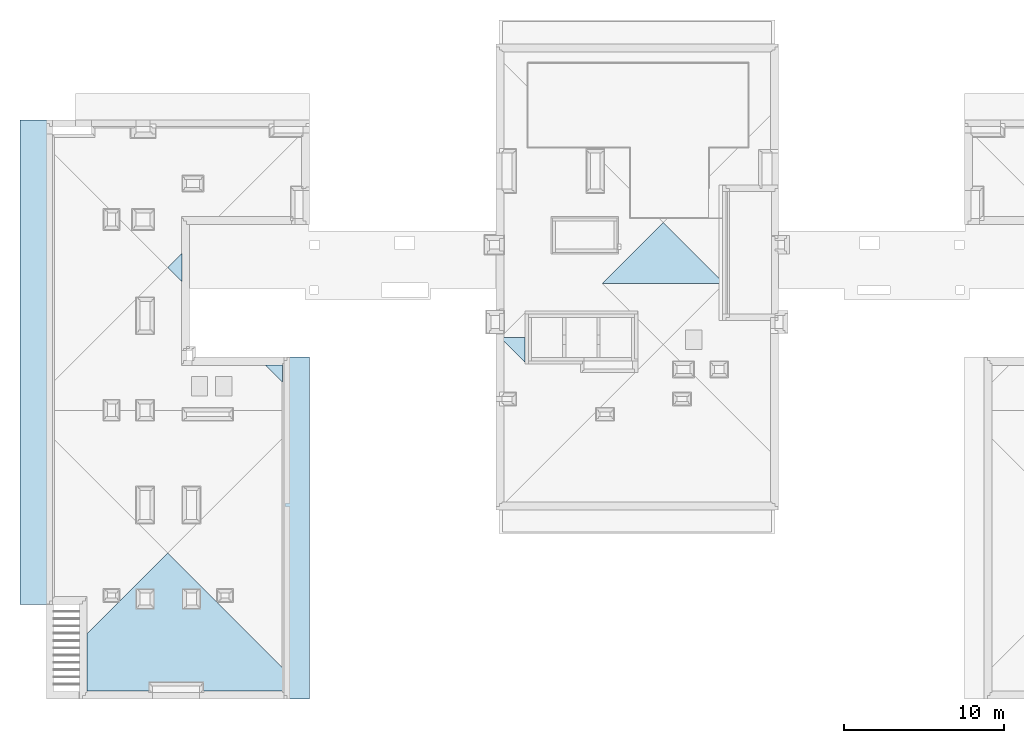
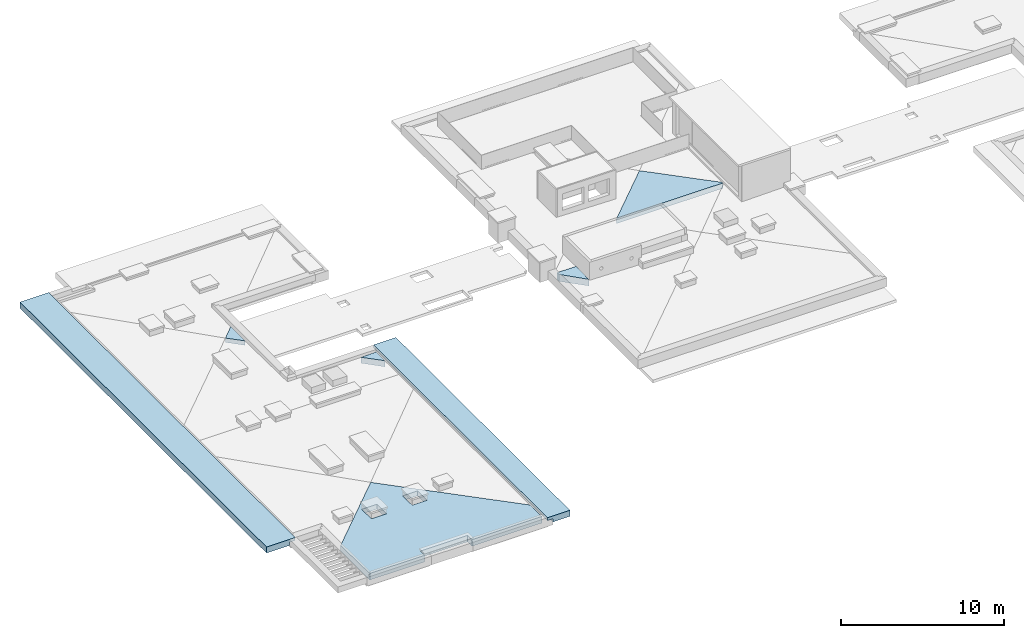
# One storey, part 2 of 16: 7 slabs, 2 openings.
"""IFC2X3 building model written with IfcOpenShell, lengths in millimetres."""

import ifcopenshell
import ifcopenshell.guid

model = None  # the IFC model being written
_history = None  # IfcOwnerHistory: only IFC2X3 demands one
_inside = {}  # id of a spatial element -> (the spatial element, [elements in it])
_under = {}  # id of a project, library or spatial element -> (it, [spatial elements below it])
_declared = {}  # id of a project -> (the project, [libraries it declares])
_typed = {}  # id of a type object -> (the type object, [elements of that type])
_made_of = {}  # id of a material, layer set ... -> (it, [elements and type objects made of it])


def new_model(schema):
    """Start an empty IFC model of exactly this schema.

    Asked for "IFC4X3", IfcOpenShell would pick the latest addendum, in which some entities
    have other attributes; the version numbers below select the first issue.
    IFC2X3 requires an IfcOwnerHistory on every rooted entity: one is made here for all.
    """
    global model, _history
    if schema == "IFC4X3":
        model = ifcopenshell.file(schema_version=(4, 3, 0, 0))
    else:
        model = ifcopenshell.file(schema=schema)
    _inside.clear()
    _under.clear()
    _declared.clear()
    _typed.clear()
    _made_of.clear()
    _history = None
    if model.schema == "IFC2X3":
        org = make("IfcOrganization", Name="unknown")
        user = make(
            "IfcPersonAndOrganization",
            ThePerson=make("IfcPerson", FamilyName="unknown"),
            TheOrganization=org,
        )
        app = make(
            "IfcApplication",
            ApplicationDeveloper=org,
            Version="unknown",
            ApplicationFullName="unknown",
            ApplicationIdentifier="unknown",
        )
        _history = make(
            "IfcOwnerHistory",
            OwningUser=user,
            OwningApplication=app,
            ChangeAction="ADDED",
            CreationDate=0,
        )
    return model


def make(cls, **values):
    """One entity of the class cls with the attributes given. An attribute that is None is left unset."""
    return model.create_entity(
        cls, **{name: value for name, value in values.items() if value is not None}
    )


def entity(cls, *values):
    """Any entity or typed value of the class cls, its attributes in the order of the schema. None: left unset."""
    e = model.create_entity(cls)
    for i, value in enumerate(values):
        if value is not None:
            e[i] = value
    return e


def rooted(cls, **values):
    """An entity with a GlobalId (a new one), such as an element, a storey or a relation."""
    return make(cls, GlobalId=ifcopenshell.guid.new(), OwnerHistory=_history, **values)


def si_unit(unit_type, name, prefix=None):
    """IfcSIUnit, for example si_unit("LENGTHUNIT", "METRE", prefix="MILLI")."""
    return make("IfcSIUnit", UnitType=unit_type, Prefix=prefix, Name=name)


def converted_unit(unit_type, name, factor, base, dimensions=None, offset=None):
    """IfcConversionBasedUnit, such as the inch: factor (a typed value) times the base unit."""
    return make(
        "IfcConversionBasedUnit"
        if offset is None
        else "IfcConversionBasedUnitWithOffset",
        ConversionOffset=offset,
        Dimensions=None
        if dimensions is None
        else entity("IfcDimensionalExponents", *dimensions),
        UnitType=unit_type,
        Name=name,
        ConversionFactor=make(
            "IfcMeasureWithUnit", ValueComponent=factor, UnitComponent=base
        ),
    )


def derived_unit(unit_type, elements):
    """IfcDerivedUnit: a product of units, each with its exponent."""
    return make(
        "IfcDerivedUnit",
        Elements=[
            make("IfcDerivedUnitElement", Unit=unit, Exponent=power)
            for unit, power in elements
        ],
        UnitType=unit_type,
    )


def money_unit(currency):
    """IfcMonetaryUnit."""
    return make("IfcMonetaryUnit", Currency=currency)


def assignment(units):
    """IfcUnitAssignment: the units of a project."""
    return None if units is None else make("IfcUnitAssignment", Units=units)


def point(xyz):
    """IfcCartesianPoint."""
    return None if xyz is None else make("IfcCartesianPoint", Coordinates=xyz)


def direction(xyz):
    """IfcDirection."""
    return None if xyz is None else make("IfcDirection", DirectionRatios=xyz)


def frame(location, z_axis=None, x_axis=None):
    """IfcAxis2Placement3D, a coordinate frame: its origin and axes. An axis left out is left unset."""
    return make(
        "IfcAxis2Placement3D",
        Location=point(location),
        Axis=direction(z_axis),
        RefDirection=direction(x_axis),
    )


def origin_with_axes():
    """The frame at (0, 0, 0) with the z axis (0, 0, 1) and the x axis (1, 0, 0) written out."""
    return frame((0.0, 0.0, 0.0), z_axis=(0.0, 0.0, 1.0), x_axis=(1.0, 0.0, 0.0))


def place(relative_to, where):
    """IfcLocalPlacement: puts the frame where relative to a parent placement (None: the world)."""
    return make(
        "IfcLocalPlacement", PlacementRelTo=relative_to, RelativePlacement=where
    )


def context(
    kind, dimensions, precision=None, world=None, true_north=None, identifier=None
):
    """IfcGeometricRepresentationContext, for example the 3D "Model" context."""
    return make(
        "IfcGeometricRepresentationContext",
        ContextIdentifier=identifier,
        ContextType=kind,
        CoordinateSpaceDimension=dimensions,
        Precision=precision,
        WorldCoordinateSystem=world,
        TrueNorth=true_north,
    )


def subcontext(parent, identifier, kind, view, scale=None):
    """IfcGeometricRepresentationSubContext, for example "Body" below "Model"."""
    return make(
        "IfcGeometricRepresentationSubContext",
        ContextIdentifier=identifier,
        ContextType=kind,
        ParentContext=parent,
        TargetScale=scale,
        TargetView=view,
    )


def project(units=None, contexts=None):
    """IfcProject with its units and contexts."""
    return rooted(
        "IfcProject",
        Name="project",
        RepresentationContexts=contexts,
        UnitsInContext=assignment(units),
    )


def spatial(cls, under=None, at=None, **own):
    """A site, building, storey or space (cls), placed at a placement, below another one or the project."""
    s = rooted(cls, ObjectPlacement=at, **own)
    if under is not None:
        _under.setdefault(under.id(), (under, []))[1].append(s)
    return s


def faces_of(points, faces, orient=None, outer=None):
    """IfcFace entities. A face is a list of loops; a loop is a list of indices into points, from 0.

    orient and outer hold one flag for each loop. By default every Orientation is true, the
    first loop of a face is its IfcFaceOuterBound and the others are IfcFaceBound.
    """
    made = []
    for i, loops in enumerate(faces):
        bounds = []
        for j, loop in enumerate(loops):
            is_outer = j == 0 if outer is None else outer[i][j]
            bounds.append(
                make(
                    "IfcFaceOuterBound" if is_outer else "IfcFaceBound",
                    Bound=make("IfcPolyLoop", Polygon=[points[k] for k in loop]),
                    Orientation=True if orient is None else orient[i][j],
                )
            )
        made.append(make("IfcFace", Bounds=bounds))
    return made


def faceted_brep(points, faces, orient=None, outer=None, voids=None):
    """IfcFacetedBrep: a solid bounded by flat faces; with voids (closed shells), ...WithVoids."""
    shared = [point(p) for p in points]
    hull = make("IfcClosedShell", CfsFaces=faces_of(shared, faces, orient, outer))
    if voids is None:
        return make("IfcFacetedBrep", Outer=hull)
    return make(
        "IfcFacetedBrepWithVoids",
        Outer=hull,
        Voids=[
            make(cls, CfsFaces=faces_of(shared, fs, o, b)) for cls, fs, o, b in voids
        ],
    )


def shape(context_of_items, identifier, shape_type, items):
    """IfcShapeRepresentation: the items that make up one representation, for example the "Body"."""
    return make(
        "IfcShapeRepresentation",
        ContextOfItems=context_of_items,
        RepresentationIdentifier=identifier,
        RepresentationType=shape_type,
        Items=items,
    )


def material(Name=None, Category=None):
    """IfcMaterial."""
    return make("IfcMaterial", Name=Name, Category=Category)


def material_list(materials):
    """IfcMaterialList."""
    return make("IfcMaterialList", Materials=materials)


def made_of(thing, what):
    """Note that an element or type object is made of a material, layer set ...; save() writes the relation."""
    if what is not None:
        _made_of.setdefault(what.id(), (what, []))[1].append(thing)
    return thing


def type_object(cls, material=None, **own):
    """A type object (cls), such as IfcWallType, which elements share."""
    return made_of(rooted(cls, **own), material)


def element(
    cls,
    number,
    at=None,
    inside=None,
    cuts=None,
    type_object=None,
    material=None,
    context=None,
    identifier="Body",
    shape_type=None,
    held_by="IfcProductDefinitionShape",
    body=None,
    shapes=None,
    **own,
):
    """One element of the class cls, such as IfcWall. Its Tag is "e" and its number.

    at: its placement. inside: the storey or other place that contains it. cuts: it is an
    opening in that element (IfcRelVoidsElement). A single representation is given by context,
    identifier, shape_type and body (its items); several are given by shapes. held_by: the class
    of the entity that holds the representations. save() writes the other relations.
    """
    e = rooted(cls, Tag="e%d" % number, ObjectPlacement=at, **own)
    if body is not None:
        shapes = [shape(context, identifier, shape_type, body)]
    if shapes is not None:
        e.Representation = make(held_by, Representations=shapes)
    if inside is not None:
        _inside.setdefault(inside.id(), (inside, []))[1].append(e)
    if cuts is not None:
        rooted(
            "IfcRelVoidsElement", RelatingBuildingElement=cuts, RelatedOpeningElement=e
        )
    if type_object is not None:
        _typed.setdefault(type_object.id(), (type_object, []))[1].append(e)
    return made_of(e, material)


def aggregate(whole, parts):
    """IfcRelAggregates: a whole, such as a stair, and the parts it consists of."""
    return rooted("IfcRelAggregates", RelatingObject=whole, RelatedObjects=parts)


def save(model, path):
    """Write the relations noted so far, then the file.

    IfcRelAggregates (storeys below a building ...), IfcRelContainedInSpatialStructure (elements
    in a storey), IfcRelDefinesByType, IfcRelAssociatesMaterial and IfcRelDeclares: one each for
    every whole, place, type object, material and project.
    """
    for whole, parts in _under.values():
        aggregate(whole, parts)
    for where, things in _inside.values():
        rooted(
            "IfcRelContainedInSpatialStructure",
            RelatedElements=things,
            RelatingStructure=where,
        )
    for kind, things in _typed.values():
        rooted("IfcRelDefinesByType", RelatedObjects=things, RelatingType=kind)
    for what, things in _made_of.values():
        rooted("IfcRelAssociatesMaterial", RelatedObjects=things, RelatingMaterial=what)
    for by, libraries in _declared.values():
        rooted("IfcRelDeclares", RelatingContext=by, RelatedDefinitions=libraries)
    model.write(path)


model = new_model("IFC2X3")

# Units and contexts
model_context = context("Model", 3, precision=0.01, world=origin_with_axes(), true_north=direction((0.34421633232, 0.938890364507)))
body_context = subcontext(model_context, "Body", "Model", "MODEL_VIEW")
ifc_project = project(units=[si_unit("LENGTHUNIT", "METRE", prefix="MILLI"), si_unit("AREAUNIT", "SQUARE_METRE"), si_unit("VOLUMEUNIT", "CUBIC_METRE"), converted_unit("PLANEANGLEUNIT", "DEGREE", entity("IfcPlaneAngleMeasure", 0.0174532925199), si_unit("PLANEANGLEUNIT", "RADIAN"), dimensions=[0, 0, 0, 0, 0, 0, 0]), si_unit("SOLIDANGLEUNIT", "STERADIAN"), money_unit("USD"), converted_unit("TIMEUNIT", "Year", entity("IfcTimeMeasure", 31556926.0), si_unit("TIMEUNIT", "SECOND"), dimensions=[0, 0, 1, 0, 0, 0, 0]), si_unit("MASSUNIT", "GRAM", prefix="KILO"), si_unit("THERMODYNAMICTEMPERATUREUNIT", "DEGREE_CELSIUS"), si_unit("LUMINOUSINTENSITYUNIT", "LUMEN"), si_unit("ENERGYUNIT", "JOULE", prefix="MEGA"), derived_unit("THERMALCONDUCTANCEUNIT", [(si_unit("POWERUNIT", "WATT"), 1), (si_unit("LENGTHUNIT", "METRE"), -1), (si_unit("THERMODYNAMICTEMPERATUREUNIT", "KELVIN"), -1)]), derived_unit("SPECIFICHEATCAPACITYUNIT", [(si_unit("ENERGYUNIT", "JOULE"), 1), (si_unit("MASSUNIT", "GRAM", prefix="KILO"), -1), (si_unit("THERMODYNAMICTEMPERATUREUNIT", "KELVIN"), -1)]), derived_unit("MASSDENSITYUNIT", [(si_unit("MASSUNIT", "GRAM", prefix="KILO"), 1), (si_unit("VOLUMEUNIT", "CUBIC_METRE"), -1)])], contexts=[model_context])

# Site, building, storey
site_placement = place(None, origin_with_axes())
site = spatial("IfcSite", under=ifc_project, at=site_placement, Name="USTRONIE MORSKIE", CompositionType="ELEMENT")
building_placement = place(site_placement, origin_with_axes())
building = spatial("IfcBuilding", under=site, at=building_placement, Name="Budynek", CompositionType="ELEMENT")
storey_placement = place(building_placement, frame((0.0, 0.0, 19000.0), z_axis=(0.0, 0.0, 1.0), x_axis=(1.0, 0.0, 0.0)))
storey = spatial("IfcBuildingStorey", under=building, at=storey_placement, Name="DACH", CompositionType="ELEMENT", Elevation=19000.0)

# Slabs
ifc_material_1 = material(Name="Okładzina kamienna")
ifc_material_2 = material(Name="Żwir")
ifc_material_3 = material(Name="Membrana hydroizolacyjna")
ifc_material_4 = material(Name="Termoizolacja PIR")
ifc_material_list_1 = material_list([ifc_material_1, ifc_material_2, ifc_material_3, ifc_material_4, ifc_material_4])
slab_type_1 = type_object("IfcSlabType", Name="509-PS STROP DACH BALAST 560", PredefinedType="ROOF")
slab_1_placement = place(storey_placement, frame((358537.920824, 729591.199019, -400.0), z_axis=(0.0, 0.0, 1.0), x_axis=(0.0, 1.0, 0.0)))
element("IfcSlab", 1, at=slab_1_placement, inside=storey, type_object=slab_type_1, material=ifc_material_list_1, Name="DA3", PredefinedType="ROOF", context=body_context, shape_type="Brep", body=[
    faceted_brep([(130.0, -7149.99998343, 703.111988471), (130.0, -6080.0000741, 681.711990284), (-939.999909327, -7149.99998343, 703.111988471), (130.000000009, -7149.99998344, 683.107988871), (130.000000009, -6080.00007412, 661.707990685), (-939.999909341, -7149.99998344, 683.107988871)], [[[0, 1, 2]], [[0, 3, 4, 1]], [[1, 4, 5, 2]], [[2, 5, 3, 0]], [[3, 5, 4]]]),
    faceted_brep([(-939.999909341, -7149.99998344, 683.107988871), (-939.999909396, -7149.9999835, 603.091990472), (130.000000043, -7149.9999835, 603.091990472), (130.000000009, -7149.99998344, 683.107988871), (130.000000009, -6080.00007412, 661.707990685), (130.000000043, -6080.00007419, 581.691992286)], [[[0, 1, 2, 3]], [[4, 5, 1, 0]], [[2, 1, 5]], [[3, 2, 5, 4]], [[3, 4, 0]]]),
    faceted_brep([(-939.999909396, -7149.9999835, 603.091990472), (-939.999909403, -7149.99998351, 593.089990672), (130.000000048, -7149.99998351, 593.089990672), (130.000000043, -7149.9999835, 603.091990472), (130.000000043, -6080.00007419, 581.691992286), (130.000000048, -6080.00007419, 571.689992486)], [[[0, 1, 2, 3]], [[4, 5, 1, 0]], [[2, 1, 5]], [[3, 2, 5, 4]], [[3, 4, 0]]]),
    faceted_brep([(-939.999909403, -7149.99998351, 593.089990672), (-939.999909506, -7149.99998361, 443.059993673), (130.000000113, -7149.99998361, 443.059993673), (130.000000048, -7149.99998351, 593.089990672), (130.000000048, -6080.00007419, 571.689992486), (130.000000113, -6080.00007432, 421.659995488)], [[[0, 1, 2, 3]], [[4, 5, 1, 0]], [[2, 1, 5]], [[3, 2, 5, 4]], [[3, 4, 0]]]),
    faceted_brep([(-939.999909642, -7149.99998375, 244.999999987), (130.000000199, -7149.99998375, 244.999999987), (130.000000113, -7149.99998361, 443.059993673), (-939.999909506, -7149.99998361, 443.059993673), (130.00000019, -6080.00007447, 244.999999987), (130.000000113, -6080.00007432, 421.659995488)], [[[0, 1, 2, 3]], [[4, 1, 0]], [[1, 4, 5, 2]], [[3, 2, 5]], [[4, 0, 3, 5]]]),
])
slab_2_placement = place(storey_placement, frame((387703.04047, 738611.198919, -400.0), z_axis=(0.0, 0.0, 1.0), x_axis=(1.0, 0.0, 0.0)))
element("IfcSlab", 2, at=slab_2_placement, inside=storey, type_object=slab_type_1, material=ifc_material_list_1, Name="DA3", PredefinedType="ROOF", context=body_context, shape_type="Brep", body=[
    faceted_brep([(-2045.11955163, -3799.9999165, 636.111987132), (5464.88042075, -3799.9999165, 636.111987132), (5464.88042075, -3709.99988877, 634.311986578), (1754.88045864, 9.37682216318e-05, 560.111986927), (-2045.11955165, -3799.99991652, 616.107987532), (5464.88042075, -3799.99991652, 616.107987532), (5464.88042075, -3709.99988876, 614.307986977), (1754.88045865, 9.37733375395e-05, 540.107987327)], [[[0, 1, 2, 3]], [[0, 4, 5, 1]], [[1, 5, 6, 2]], [[2, 6, 7, 3]], [[3, 7, 4, 0]], [[4, 7, 6, 5]]]),
    faceted_brep([(1754.88045865, 9.37733375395e-05, 540.107987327), (1754.8804587, 9.37938011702e-05, 460.091988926), (-2045.1195517, -3799.99991657, 536.091989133), (-2045.11955165, -3799.99991652, 616.107987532), (5464.88042075, -3709.99988876, 614.307986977), (5464.88042075, -3709.99988873, 534.291988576), (5464.88042075, -3799.99991657, 536.091989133), (5464.88042075, -3799.99991652, 616.107987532)], [[[0, 1, 2, 3]], [[4, 5, 1, 0]], [[2, 1, 5, 6]], [[3, 2, 6, 7]], [[3, 7, 4, 0]], [[7, 6, 5, 4]]]),
    faceted_brep([(1754.8804587, 9.37938011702e-05, 460.091988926), (1754.8804587, 9.37963022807e-05, 450.089989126), (-2045.11955171, -3799.99991658, 526.089989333), (-2045.1195517, -3799.99991657, 536.091989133), (5464.88042075, -3709.99988873, 534.291988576), (5464.88042075, -3709.99988873, 524.289988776), (5464.88042075, -3799.99991658, 526.089989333), (5464.88042075, -3799.99991657, 536.091989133)], [[[0, 1, 2, 3]], [[4, 5, 1, 0]], [[2, 1, 5, 6]], [[3, 2, 6, 7]], [[3, 7, 4, 0]], [[7, 6, 5, 4]]]),
    faceted_brep([(1754.8804587, 9.37963022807e-05, 450.089989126), (1754.88045879, 9.3834614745e-05, 300.059992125), (-2045.11955181, -3799.99991668, 376.059992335), (-2045.11955171, -3799.99991658, 526.089989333), (5464.88042075, -3709.99988873, 524.289988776), (5464.88042075, -3709.99988867, 374.259991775), (5464.88042075, -3799.99991668, 376.059992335), (5464.88042075, -3799.99991658, 526.089989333)], [[[0, 1, 2, 3]], [[4, 5, 1, 0]], [[2, 1, 5, 6]], [[3, 2, 6, 7]], [[3, 7, 4, 0]], [[7, 6, 5, 4]]]),
    faceted_brep([(5464.88042075, -3799.99991677, 245.0), (5464.88042075, -3709.99988863, 245.0), (5464.88042075, -3709.99988867, 374.259991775), (5464.88042075, -3799.99991668, 376.059992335), (1754.88045882, 9.38488255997e-05, 245.0), (-2045.11955191, -3799.99991677, 245.0), (1754.88045879, 9.38347284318e-05, 300.059992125), (-2045.11955181, -3799.99991668, 376.059992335)], [[[0, 1, 2, 3]], [[4, 1, 0, 5]], [[1, 4, 6, 2]], [[6, 7, 3, 2]], [[5, 0, 3, 7]], [[4, 5, 7, 6]]]),
])
slab_3_placement = place(storey_placement, frame((379517.921408, 722091.198918, -383.600007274), z_axis=(0.0, 0.0, 1.0), x_axis=(-1.0, -5.50585355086e-09, 0.0)))
element("IfcSlab", 3, at=slab_3_placement, inside=storey, type_object=slab_type_1, material=ifc_material_list_1, Name="DA3", PredefinedType="ROOF", context=body_context, shape_type="Brep", body=[
    faceted_brep([(20.0004422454, -9355.00001859, 747.211989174), (20.0004317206, -9140.00009967, 742.911990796), (-1319.9995537, -7800.0000995, 716.111990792), (-1319.99956226, -9355.00001121, 747.211989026), (20.0004422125, -9355.0000186, 727.207989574), (20.0004316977, -9140.00009965, 722.907991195), (-1319.99955368, -7800.00009951, 696.107991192), (-1319.99956227, -9355.00001122, 727.207989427)], [[[0, 1, 2, 3]], [[0, 4, 5, 1]], [[1, 5, 6, 2]], [[2, 6, 7, 3]], [[3, 7, 4, 0]], [[4, 7, 6, 5]]]),
    faceted_brep([(-1319.99956227, -9355.00001122, 727.207989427), (-1319.99956232, -9355.00001127, 647.191991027), (20.0004420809, -9355.00001866, 647.191991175), (20.0004422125, -9355.0000186, 727.207989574), (-1319.99955368, -7800.00009951, 696.107991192), (-1319.99955362, -7800.00009954, 616.091992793), (20.0004316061, -9140.00009954, 642.891992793), (20.0004316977, -9140.00009965, 722.907991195)], [[[0, 1, 2, 3]], [[4, 5, 1, 0]], [[2, 1, 5, 6]], [[3, 2, 6, 7]], [[3, 7, 4, 0]], [[7, 6, 5, 4]]]),
    faceted_brep([(-1319.99956232, -9355.00001127, 647.191991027), (-1319.99956232, -9355.00001127, 637.189991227), (20.0004420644, -9355.00001866, 637.189991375), (20.0004420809, -9355.00001866, 647.191991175), (-1319.99955362, -7800.00009954, 616.091992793), (-1319.99955361, -7800.00009954, 606.089992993), (20.0004315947, -9140.00009953, 632.889992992), (20.0004316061, -9140.00009954, 642.891992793)], [[[0, 1, 2, 3]], [[4, 5, 1, 0]], [[2, 1, 5, 6]], [[3, 2, 6, 7]], [[3, 7, 4, 0]], [[7, 6, 5, 4]]]),
    faceted_brep([(-1319.99956232, -9355.00001127, 637.189991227), (-1319.99956241, -9355.00001136, 487.159994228), (20.0004418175, -9355.00001877, 487.159994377), (20.0004420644, -9355.00001866, 637.189991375), (-1319.99955361, -7800.00009954, 606.089992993), (-1319.9995535, -7800.0000996, 456.059995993), (20.0004314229, -9140.00009933, 482.859995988), (20.0004315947, -9140.00009953, 632.889992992)], [[[0, 1, 2, 3]], [[4, 5, 1, 0]], [[2, 1, 5, 6]], [[3, 2, 6, 7]], [[3, 7, 4, 0]], [[7, 6, 5, 4]]]),
    faceted_brep([(-1319.99955333, -7800.00009969, 228.600007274), (-1319.99956256, -9355.0000115, 228.600007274), (-1319.99956241, -9355.00001136, 487.159994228), (-1319.9995535, -7800.0000996, 456.059995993), (20.0004413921, -9355.00001895, 228.600007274), (20.0004311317, -9140.00009899, 228.600007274), (20.0004418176, -9355.00001877, 487.159994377), (20.0004314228, -9140.00009933, 482.859995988)], [[[0, 1, 2, 3]], [[4, 1, 0, 5]], [[1, 4, 6, 2]], [[2, 6, 7, 3]], [[5, 0, 3, 7]], [[4, 5, 7, 6]]]),
])
slab_4_placement = place(storey_placement, frame((358537.920824, 732791.199009, -400.0), z_axis=(0.0, 0.0, 1.0), x_axis=(-5.50528511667e-09, 1.0, 0.0)))
element("IfcSlab", 4, at=slab_4_placement, inside=storey, type_object=slab_type_1, material=ifc_material_list_1, Name="DA3", PredefinedType="ROOF", context=body_context, shape_type="Brep", body=[
    faceted_brep([(3890.00015472, -880.000064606, 577.711990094), (3010.00009981, -1.25055521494e-09, 560.111988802), (2130.0000352, -880.000054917, 577.711989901), (3890.00015472, -880.00006462, 557.707990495), (3010.00009981, 1.25055521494e-08, 540.107989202), (2130.00003519, -880.000054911, 557.7079903)], [[[0, 1, 2]], [[0, 3, 4, 1]], [[1, 4, 5, 2]], [[2, 5, 3, 0]], [[3, 5, 4]]]),
    faceted_brep([(2130.00003519, -880.000054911, 557.7079903), (2130.00003513, -880.000054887, 477.6919919), (3890.00015472, -880.000064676, 477.691992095), (3890.00015472, -880.00006462, 557.707990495), (3010.00009981, 1.25055521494e-08, 540.107989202), (3010.00009982, 6.75868250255e-08, 460.0919908)], [[[0, 1, 2, 3]], [[4, 5, 1, 0]], [[2, 1, 5]], [[3, 2, 5, 4]], [[3, 4, 0]]]),
    faceted_brep([(2130.00003513, -880.000054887, 477.6919919), (2130.00003513, -880.000054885, 467.689992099), (3890.00015472, -880.000064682, 467.689992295), (3890.00015472, -880.000064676, 477.691992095), (3010.00009982, 6.76436684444e-08, 460.0919908), (3010.00009982, 7.45217221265e-08, 450.089991)], [[[0, 1, 2, 3]], [[4, 5, 1, 0]], [[2, 1, 5]], [[3, 2, 5, 4]], [[3, 4, 0]]]),
    faceted_brep([(2130.00003513, -880.000054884, 467.689992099), (2130.00003502, -880.000054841, 317.659995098), (3890.00015473, -880.000064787, 317.659995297), (3890.00015472, -880.000064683, 467.689992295), (3010.00009982, 7.45217221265e-08, 450.089991), (3010.00009985, 1.77806214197e-07, 300.059993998)], [[[0, 1, 2, 3]], [[4, 5, 1, 0]], [[2, 1, 5]], [[3, 2, 5, 4]], [[3, 4, 0]]]),
    faceted_brep([(2130.00003497, -880.000054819, 244.999999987), (3890.00015473, -880.000064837, 244.999999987), (3890.00015473, -880.000064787, 317.659995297), (2130.00003502, -880.000054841, 317.659995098), (3010.00009986, 2.15720774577e-07, 244.999999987), (3010.00009985, 1.77806214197e-07, 300.059993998)], [[[0, 1, 2, 3]], [[4, 1, 0]], [[1, 4, 5, 2]], [[3, 2, 5]], [[4, 0, 3, 5]]]),
])

# Slab, openings
slab_5_placement = place(storey_placement, frame((356783.040529, 718001.199036, -400.0), z_axis=(0.0, 0.0, 1.0), x_axis=(1.0, 0.0, 0.0)))
slab_5 = element("IfcSlab", 5, at=slab_5_placement, inside=storey, type_object=slab_type_1, material=ifc_material_list_1, Name="DA3", PredefinedType="ROOF", context=body_context, shape_type="Brep", body=[
    faceted_brep([(594.881957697, -8620.0, 732.511988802), (594.881957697, -8079.9999547, 721.711987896), (3954.88046639, -8079.9999547, 721.711987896), (3954.88046639, -8620.0, 732.511988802), (8904.88038965, -8620.0, 732.511988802), (8904.88038965, -7149.99983638, 703.11198553), (5524.08482513, -3769.20427187, 635.49607424), (5234.88248043, -3480.00192717, 629.712027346), (1754.88047577, 7.74864474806e-05, 560.111987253), (-3285.11961035, -5040.00019035, 660.911992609), (-3285.11961035, -8620.0, 732.511988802), (594.881957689, -8620.00000001, 712.507989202), (594.881957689, -8079.99995469, 701.707988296), (3954.8804664, -8079.99995469, 701.707988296), (3954.8804664, -8620.00000001, 712.507989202), (8904.88038965, -8620.00000001, 712.507989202), (8904.88038965, -7149.99983638, 683.10798593), (5524.28485022, -3769.40429695, 615.496075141), (5235.08250672, -3480.20195347, 609.712028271), (1754.88047578, 7.747496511e-05, 540.107987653), (-3285.11961037, -5040.00019036, 640.907993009), (-3285.11961037, -8620.00000001, 712.507989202)], [[[0, 1, 2, 3, 4, 5, 6, 7, 8, 9, 10]], [[0, 11, 12, 1]], [[1, 12, 13, 2]], [[2, 13, 14, 3]], [[3, 14, 15, 4]], [[4, 15, 16, 5]], [[5, 16, 17, 6]], [[6, 17, 18, 7]], [[7, 18, 19, 8]], [[8, 19, 20, 9]], [[9, 20, 21, 10]], [[10, 21, 11, 0]], [[11, 21, 20, 19, 18, 17, 16, 15, 14, 13, 12]]]),
    faceted_brep([(-3285.11961037, -8620.00000001, 712.507989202), (-3285.11961042, -8620.00000007, 632.491990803), (594.88195766, -8620.00000007, 632.491990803), (594.881957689, -8620.00000001, 712.507989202), (-3285.11961037, -5040.00019036, 640.907993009), (-3285.11961042, -5040.00019038, 560.891994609), (1754.8804758, 7.74292630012e-05, 460.091989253), (5235.88261188, -3481.00205865, 529.712031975), (5525.0849506, -3770.20439728, 535.496078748), (8904.88038965, -7149.99983638, 603.091987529), (8904.88038965, -8620.00000007, 632.491990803), (3954.88046646, -8620.00000007, 632.491990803), (3954.88046646, -8079.99995463, 621.691989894), (594.88195766, -8079.99995463, 621.691989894), (594.881957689, -8079.99995469, 701.707988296), (3954.8804664, -8079.99995469, 701.707988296), (3954.8804664, -8620.00000001, 712.507989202), (8904.88038965, -8620.00000001, 712.507989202), (8904.88038965, -7149.99983638, 683.10798593), (5524.28485022, -3769.40429695, 615.496075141), (5235.08250672, -3480.20195347, 609.712028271), (1754.88047578, 7.747496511e-05, 540.107987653)], [[[0, 1, 2, 3]], [[4, 5, 1, 0]], [[2, 1, 5, 6, 7, 8, 9, 10, 11, 12, 13]], [[3, 2, 13, 14]], [[3, 14, 15, 16, 17, 18, 19, 20, 21, 4, 0]], [[21, 6, 5, 4]], [[20, 7, 6, 21]], [[19, 8, 7, 20]], [[18, 9, 8, 19]], [[17, 10, 9, 18]], [[16, 11, 10, 17]], [[15, 12, 11, 16]], [[14, 13, 12, 15]]]),
    faceted_brep([(-3285.11961042, -8620.00000007, 632.491990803), (-3285.11961043, -8620.00000008, 622.489991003), (594.881957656, -8620.00000008, 622.489991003), (594.88195766, -8620.00000007, 632.491990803), (-3285.11961042, -5040.00019038, 560.891994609), (-3285.11961043, -5040.00019039, 550.88999481), (1754.8804758, 7.74235786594e-05, 450.089989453), (5235.98262503, -3481.1020718, 519.712032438), (5525.18496315, -3770.30440983, 525.496079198), (8904.88038965, -7149.99983638, 593.089987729), (8904.88038965, -8620.00000008, 622.489991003), (3954.88046646, -8620.00000008, 622.489991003), (3954.88046646, -8079.99995462, 611.689990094), (594.881957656, -8079.99995462, 611.689990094), (594.88195766, -8079.99995463, 621.691989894), (3954.88046646, -8079.99995463, 621.691989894), (3954.88046646, -8620.00000007, 632.491990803), (8904.88038965, -8620.00000007, 632.491990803), (8904.88038965, -7149.99983638, 603.091987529), (5525.0849506, -3770.20439728, 535.496078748), (5235.88261188, -3481.00205865, 529.712031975), (1754.8804758, 7.74292630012e-05, 460.091989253)], [[[0, 1, 2, 3]], [[4, 5, 1, 0]], [[2, 1, 5, 6, 7, 8, 9, 10, 11, 12, 13]], [[3, 2, 13, 14]], [[3, 14, 15, 16, 17, 18, 19, 20, 21, 4, 0]], [[21, 6, 5, 4]], [[20, 7, 6, 21]], [[19, 8, 7, 20]], [[18, 9, 8, 19]], [[17, 10, 9, 18]], [[16, 11, 10, 17]], [[15, 12, 11, 16]], [[14, 13, 12, 15]]]),
    faceted_brep([(-3285.11961043, -8620.00000008, 622.489991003), (-3285.11961053, -8620.00000018, 472.459994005), (594.881957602, -8620.00000018, 472.459994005), (594.881957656, -8620.00000008, 622.489991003), (-3285.11961043, -5040.00019039, 550.88999481), (-3285.11961053, -5040.00019043, 400.85999781), (1754.88047584, 7.73378587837e-05, 300.059992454), (5237.48282221, -3482.60226902, 369.712039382), (5526.68515136, -3771.80459795, 375.49608596), (8904.88038966, -7149.99983636, 443.059990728), (8904.88038966, -8620.00000018, 472.459994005), (3954.88046657, -8620.00000018, 472.459994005), (3954.88046657, -8079.99995451, 461.659993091), (594.881957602, -8079.99995451, 461.659993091), (594.881957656, -8079.99995462, 611.689990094), (3954.88046646, -8079.99995462, 611.689990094), (3954.88046646, -8620.00000008, 622.489991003), (8904.88038965, -8620.00000008, 622.489991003), (8904.88038965, -7149.99983638, 593.089987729), (5525.18496315, -3770.30440983, 525.496079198), (5235.98262503, -3481.1020718, 519.712032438), (1754.8804758, 7.74235786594e-05, 450.089989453)], [[[0, 1, 2, 3]], [[4, 5, 1, 0]], [[2, 1, 5, 6, 7, 8, 9, 10, 11, 12, 13]], [[3, 2, 13, 14]], [[3, 14, 15, 16, 17, 18, 19, 20, 21, 4, 0]], [[21, 6, 5, 4]], [[20, 7, 6, 21]], [[19, 8, 7, 20]], [[18, 9, 8, 19]], [[17, 10, 9, 18]], [[16, 11, 10, 17]], [[15, 12, 11, 16]], [[14, 13, 12, 15]]]),
    faceted_brep([(-85.119610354, -3370.00197779, 240.0), (-85.119610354, -2379.99955533, 240.0), (774.880389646, -2379.99955533, 240.0), (774.880389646, -3370.00197779, 240.0), (34.880389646, -3250.00197779, 240.0), (654.880389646, -3250.00197779, 240.0), (654.880389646, -2499.99955533, 240.0), (34.880389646, -2499.99955533, 240.0), (-85.119610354, -3370.00197779, 244.999999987), (-85.119610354, -2379.99955533, 244.999999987), (774.880389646, -2379.99955533, 244.999999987), (774.880389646, -3370.00197779, 244.999999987), (34.880389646, -3250.00197779, 245.0), (654.880389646, -3250.00197779, 245.0), (654.880389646, -2499.99955533, 245.0), (34.880389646, -2499.99955533, 245.0), (1754.88047585, 7.73063675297e-05, 244.999999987), (8904.88038966, -7149.99983634, 244.999999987), (8904.88038966, -8620.00000034, 244.999999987), (3954.88046673, -8620.00000034, 244.999999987), (3954.88046672, -8079.99995434, 244.999999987), (594.881957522, -8079.99995434, 244.999999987), (594.881957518, -8620.00000034, 244.999999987), (-3285.11961069, -8620.00000034, 244.999999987), (-3285.11961064, -5040.00019048, 244.999999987), (2794.88058956, -3370.00197779, 244.999999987), (3654.88129082, -3370.00197779, 244.999999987), (3654.88129082, -2379.99955533, 244.999999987), (2794.88058956, -2379.99955533, 244.999999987), (1754.88047584, 7.73378587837e-05, 300.059992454), (8904.88038966, -7149.99983636, 443.059990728), (8904.88038966, -8620.00000018, 472.459994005), (3954.88046657, -8620.00000018, 472.459994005), (3954.88046657, -8079.99995451, 461.659993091), (594.881957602, -8079.99995451, 461.659993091), (594.881957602, -8620.00000018, 472.459994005), (-3285.11961053, -8620.00000018, 472.459994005), (-3285.11961053, -5040.00019043, 400.85999781), (2794.88058956, -3370.00197779, 240.0), (3654.88129082, -3370.00197779, 240.0), (3654.88129082, -2379.99955533, 240.0), (2794.88058956, -2379.99955533, 240.0), (2914.88058956, -3250.00197779, 240.0), (3534.88129082, -3250.00197779, 240.0), (3534.88129082, -2499.99955533, 240.0), (2914.88058956, -2499.99955533, 240.0), (2914.88058956, -3250.00197779, 245.0), (3534.88129082, -3250.00197779, 245.0), (3534.88129082, -2499.99955533, 245.0), (2914.88058956, -2499.99955533, 245.0)], [[[0, 1, 2, 3], [4, 5, 6, 7]], [[1, 0, 8, 9]], [[2, 1, 9, 10]], [[3, 2, 10, 11]], [[0, 3, 11, 8]], [[5, 4, 12, 13]], [[6, 5, 13, 14]], [[7, 6, 14, 15]], [[4, 7, 15, 12]], [[16, 17, 18, 19, 20, 21, 22, 23, 24], [11, 10, 9, 8], [25, 26, 27, 28]], [[15, 14, 13, 12]], [[17, 16, 29, 30]], [[18, 17, 30, 31]], [[19, 18, 31, 32]], [[20, 19, 32, 33]], [[21, 20, 33, 34]], [[22, 21, 34, 35]], [[23, 22, 35, 36]], [[24, 23, 36, 37]], [[16, 24, 37, 29]], [[38, 39, 26, 25]], [[39, 40, 27, 26]], [[40, 41, 28, 27]], [[41, 38, 25, 28]], [[36, 35, 34, 33, 32, 31, 30, 29, 37]], [[38, 41, 40, 39], [42, 43, 44, 45]], [[43, 42, 46, 47]], [[44, 43, 47, 48]], [[45, 44, 48, 49]], [[42, 45, 49, 46]], [[47, 46, 49, 48]]]),
])
opening_1_placement = place(slab_5_placement, origin_with_axes())
element("IfcOpeningElement", 6, at=opening_1_placement, cuts=slab_5, Name="Otwór stropu", context=body_context, shape_type="Brep", body=[
    faceted_brep([(-195.119526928, -3480.00197776, 244.999999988), (-195.119526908, -2269.99957583, 244.999999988), (884.880313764, -2269.99957583, 244.999999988), (884.880313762, -3480.00197776, 244.999999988), (774.880389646, -3370.00197779, 244.999999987), (774.880389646, -2379.99955533, 244.999999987), (-85.1196149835, -2379.99955533, 244.999999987), (-85.1196149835, -3370.00197779, 244.999999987), (-195.119526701, -3480.00197778, 519.690030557), (-195.119526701, -2269.99957568, 495.489982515), (884.880313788, -2269.99957568, 495.489982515), (884.880313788, -3480.00197778, 519.690030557), (774.880389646, -3370.00197779, 240.0), (774.880389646, -2379.99955533, 240.0), (-85.1196149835, -2379.99955533, 240.0), (-85.1196149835, -3370.00197779, 240.0), (-195.119526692, -3480.00197779, 529.692030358), (-195.119526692, -2269.99957568, 505.491982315), (884.880313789, -2269.99957568, 505.491982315), (884.880313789, -3480.00197779, 529.692030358), (34.880383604, -3250.00197921, 240.0), (654.880391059, -3250.00197921, 240.0), (654.880389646, -2499.99955533, 240.0), (34.880389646, -2499.99955533, 240.0), (-195.119526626, -3480.00197779, 609.708028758), (-195.119526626, -2269.99957563, 585.507980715), (884.880313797, -2269.99957563, 585.507980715), (884.880313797, -3480.00197779, 609.708028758), (34.880383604, -3250.00197921, 245.0), (654.880391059, -3250.00197921, 245.0), (654.880389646, -2499.99955533, 245.0), (34.880389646, -2499.99955533, 245.0), (-195.11952661, -3480.00197779, 629.712028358), (-195.11952661, -2269.99957561, 605.511980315), (884.880313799, -2269.99957561, 605.511980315), (884.880313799, -3480.00197779, 629.712028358)], [[[0, 1, 2, 3], [4, 5, 6, 7]], [[1, 0, 8, 9]], [[2, 1, 9, 10]], [[3, 2, 10, 11]], [[0, 3, 11, 8]], [[5, 4, 12, 13]], [[6, 5, 13, 14]], [[7, 6, 14, 15]], [[4, 7, 15, 12]], [[16, 17, 9, 8]], [[17, 18, 10, 9]], [[18, 19, 11, 10]], [[19, 16, 8, 11]], [[13, 12, 15, 14], [20, 21, 22, 23]], [[24, 25, 17, 16]], [[25, 26, 18, 17]], [[26, 27, 19, 18]], [[27, 24, 16, 19]], [[21, 20, 28, 29]], [[22, 21, 29, 30]], [[23, 22, 30, 31]], [[20, 23, 31, 28]], [[32, 33, 25, 24]], [[33, 34, 26, 25]], [[34, 35, 27, 26]], [[35, 32, 24, 27]], [[29, 28, 31, 30]], [[32, 35, 34, 33]]]),
])
opening_2_placement = place(slab_5_placement, origin_with_axes())
element("IfcOpeningElement", 7, at=opening_2_placement, cuts=slab_5, Name="Otwór stropu", context=body_context, shape_type="Brep", body=[
    faceted_brep([(2694.88058982, -3470.00197809, 244.999999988), (2694.8805898, -2279.99955512, 244.999999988), (3754.88129081, -2279.99955512, 244.999999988), (3754.88129081, -3470.00197809, 244.999999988), (2794.88058956, -3370.00197779, 244.999999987), (3654.88129082, -3370.00197779, 244.999999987), (3654.88129082, -2379.99955533, 244.999999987), (2794.88059283, -2379.99955533, 244.999999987), (2694.88058963, -3470.00197788, 519.490030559), (2694.88058963, -2279.99955527, 495.689982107), (3754.88129082, -2279.99955527, 495.689982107), (3754.88129082, -3470.00197788, 519.490030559), (2794.88058956, -3370.00197779, 240.0), (3654.88129082, -3370.00197779, 240.0), (3654.88129082, -2379.99955533, 240.0), (2794.88059283, -2379.99955533, 240.0), (2694.88058962, -3470.00197787, 529.492030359), (2694.88058962, -2279.99955527, 505.691981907), (3754.88129082, -2279.99955527, 505.691981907), (3754.88129082, -3470.00197787, 529.492030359), (2914.88059142, -3250.00197921, 240.0), (3534.88129223, -3250.00197921, 240.0), (3534.88129082, -2499.99955533, 240.0), (2914.88058956, -2499.99955533, 240.0), (2694.88058957, -3470.00197781, 609.508028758), (2694.88058957, -2279.99955532, 585.707980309), (3754.88129082, -2279.99955532, 585.707980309), (3754.88129082, -3470.00197781, 609.508028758), (2914.88059142, -3250.00197921, 245.0), (3534.88129223, -3250.00197921, 245.0), (3534.88129082, -2499.99955533, 245.0), (2914.88058956, -2499.99955533, 245.0), (2694.88058956, -3470.00197779, 629.512028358), (2694.88058956, -2279.99955533, 605.711979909), (3754.88129082, -2279.99955533, 605.711979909), (3754.88129082, -3470.00197779, 629.512028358)], [[[0, 1, 2, 3], [4, 5, 6, 7]], [[1, 0, 8, 9]], [[2, 1, 9, 10]], [[3, 2, 10, 11]], [[0, 3, 11, 8]], [[5, 4, 12, 13]], [[6, 5, 13, 14]], [[7, 6, 14, 15]], [[4, 7, 15, 12]], [[16, 17, 9, 8]], [[17, 18, 10, 9]], [[18, 19, 11, 10]], [[19, 16, 8, 11]], [[13, 12, 15, 14], [20, 21, 22, 23]], [[24, 25, 17, 16]], [[25, 26, 18, 17]], [[26, 27, 19, 18]], [[27, 24, 16, 19]], [[21, 20, 28, 29]], [[22, 21, 29, 30]], [[23, 22, 30, 31]], [[20, 23, 31, 28]], [[32, 33, 25, 24]], [[33, 34, 26, 25]], [[34, 35, 27, 26]], [[35, 32, 24, 27]], [[29, 28, 31, 30]], [[32, 35, 34, 33]]]),
])

# Slabs
ifc_material_5 = material(Name="Membrana przeciwwilgociowa")
ifc_material_6 = material(Name="Beton konstrukcyjny B25")
ifc_material_7 = material(Name="Pustka powietrzna")
ifc_material_8 = material(Name="Laminat")
ifc_material_list_2 = material_list([ifc_material_5, ifc_material_6, ifc_material_7, ifc_material_8])
slab_type_2 = type_object("IfcSlabType", Name="Balkony na HALFENACH SuperFAT 450", PredefinedType="FLOOR")
slab_6_placement = place(storey_placement, frame((351347.920919, 714791.199036, 500.0), z_axis=(0.0, 0.0, 1.0), x_axis=(1.0, 0.0, 0.0)))
element("IfcSlab", 8, at=slab_6_placement, inside=storey, type_object=slab_type_2, material=ifc_material_list_2, Name="P7'", PredefinedType="FLOOR", context=body_context, shape_type="Brep", body=[
    faceted_brep([(0.0, 30220.0, -10.0), (0.0, 30220.0, 0.0), (0.0, 0.0, 0.0), (0.0, 0.0, -10.0), (-2030.0, 30220.0, -10.0), (-2030.0, 30220.0, 0.0), (-2030.0, 0.0, 0.0), (-2030.0, 0.0, -10.0)], [[[0, 1, 2, 3]], [[4, 5, 1, 0]], [[2, 1, 5, 6]], [[3, 2, 6, 7]], [[3, 7, 4, 0]], [[7, 6, 5, 4]]]),
    faceted_brep([(0.0, 30220.0, -210.0), (0.0, 30220.0, -10.0), (0.0, 0.0, -10.0), (0.0, 0.0, -210.0), (-2030.0, 30220.0, -210.0), (-2030.0, 30220.0, -10.0), (-2030.0, 0.0, -10.0), (-2030.0, 0.0, -210.0)], [[[0, 1, 2, 3]], [[4, 5, 1, 0]], [[2, 1, 5, 6]], [[3, 2, 6, 7]], [[3, 7, 4, 0]], [[7, 6, 5, 4]]]),
    faceted_brep([(-390.0, 30210.0, -210.0), (-390.0, 30220.0, -210.0), (-2030.0, 30220.0, -210.0), (-2030.0, 0.0, -210.0), (-390.0, -1.13686837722e-10, -210.0), (-390.0, 30210.0, -430.0), (-390.0, 30220.0, -430.0), (-2030.0, 30220.0, -430.0), (-2030.0, 0.0, -430.0), (-390.0, -2.27373675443e-10, -430.0)], [[[0, 1, 2, 3, 4]], [[0, 5, 6, 1]], [[1, 6, 7, 2]], [[7, 8, 3, 2]], [[9, 4, 3, 8]], [[5, 0, 4, 9]], [[5, 9, 8, 7, 6]]]),
    faceted_brep([(-390.0, 30210.0, -430.0), (-390.0, 30220.0, -430.0), (-2030.0, 30220.0, -430.0), (-2030.0, 0.0, -430.0), (-390.0, -2.27373675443e-10, -430.0), (-390.0, 30210.0, -449.999998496), (-390.0, 30220.0, -450.0), (-2030.0, 30220.0, -450.0), (-2030.0, 0.0, -450.0), (-390.0, -2.27373675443e-10, -449.999999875), (-390.0, 29700.0, -449.999998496), (-390.0, 470.0, -449.999999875)], [[[0, 1, 2, 3, 4]], [[0, 5, 6, 1]], [[1, 6, 7, 2]], [[2, 7, 8, 3]], [[9, 4, 3, 8]], [[10, 5, 0, 4, 9, 11]], [[10, 11, 9, 8, 7, 6, 5]]]),
])
slab_7_placement = place(storey_placement, frame((365787.920919, 708891.199036, 500.0), z_axis=(0.0, 0.0, 1.0), x_axis=(1.0, 0.0, 0.0)))
element("IfcSlab", 9, at=slab_7_placement, inside=storey, type_object=slab_type_2, material=ifc_material_list_2, Name="P7'", PredefinedType="FLOOR", context=body_context, shape_type="Brep", body=[
    faceted_brep([(1590.03703938, 0.0, -10.0), (1590.03703938, 0.0, 0.0), (0.0, 0.0, 0.0), (0.0, 0.0, -10.0), (1590.03703938, 21319.9996361, -10.0), (1590.03703938, 21319.9996361, 0.0), (1.70530256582e-10, 21319.9996361, 0.0), (1.70530256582e-10, 21319.9996361, -10.0)], [[[0, 1, 2, 3]], [[4, 5, 1, 0]], [[2, 1, 5, 6]], [[3, 2, 6, 7]], [[3, 7, 4, 0]], [[7, 6, 5, 4]]]),
    faceted_brep([(1590.03703938, 0.0, -210.0), (1590.03703938, 0.0, -10.0), (0.0, 0.0, -10.0), (0.0, 0.0, -210.0), (1590.03703938, 21319.9996361, -210.0), (1590.03703938, 21319.9996361, -10.0), (1.70530256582e-10, 21319.9996361, -10.0), (1.70530256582e-10, 21319.9996361, -210.0)], [[[0, 1, 2, 3]], [[4, 5, 1, 0]], [[2, 1, 5, 6]], [[3, 2, 6, 7]], [[3, 7, 4, 0]], [[7, 6, 5, 4]]]),
    faceted_brep([(390.0, 6110.0, -430.0), (1330.03639181, 6110.0, -430.0), (1330.03639181, 6310.0, -430.0), (390.0, 6310.0, -430.0), (390.0, 12010.0, -430.0), (1330.00004438, 12010.0, -430.0), (1330.00004438, 12210.0, -430.0), (390.0, 12210.0, -430.0), (390.0, 21319.9996515, -430.0), (1590.03703938, 21319.9996361, -430.0), (1590.03703938, 0.0, -430.0), (390.0, 1.13686837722e-10, -430.0), (390.0, 6110.0, -350.0), (1330.03639181, 6110.0, -350.0), (1330.03639181, 6310.0, -350.0), (390.0, 6310.0, -350.0), (390.0, 1.13686837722e-10, -210.0), (390.0, 12010.0, -210.0), (1330.00004438, 12010.0, -210.0), (1330.00004438, 12210.0, -210.0), (390.0, 12210.0, -210.0), (390.0, 21319.9998208, -210.0), (1590.03703938, 21319.9996361, -210.0), (1590.03703938, 0.0, -210.0)], [[[0, 1, 2, 3, 4, 5, 6, 7, 8, 9, 10, 11]], [[1, 0, 12, 13]], [[2, 1, 13, 14]], [[3, 2, 14, 15]], [[12, 0, 11, 16, 17, 4, 3, 15]], [[17, 18, 5, 4]], [[18, 19, 6, 5]], [[19, 20, 7, 6]], [[7, 20, 21, 8]], [[8, 21, 22, 9]], [[10, 9, 22, 23]], [[16, 11, 10, 23]], [[12, 15, 14, 13]], [[18, 17, 16, 23, 22, 21, 20, 19]]]),
    faceted_brep([(1330.03639181, 6110.0, -430.0), (390.0, 6110.0, -430.0), (390.0, 1.13686837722e-10, -430.0), (1590.03703938, 0.0, -430.0), (1590.03703938, 21319.9996361, -430.0), (390.0, 21319.9996515, -430.0), (390.0, 12210.0, -430.0), (1330.00004438, 12210.0, -430.0), (1330.00004438, 12010.0, -430.0), (390.0, 12010.0, -430.0), (390.0, 6310.0, -430.0), (1330.03639181, 6310.0, -430.0), (1330.03639181, 6110.0, -450.0), (390.0, 6110.0, -449.999999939), (390.0, 470.0, -449.999999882), (390.0, 1.13686837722e-10, -449.999999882), (1590.03703938, 0.0, -450.0), (1590.03703938, 21319.9996361, -450.0), (390.0, 21319.9996361, -449.999999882), (390.0, 12210.0, -450.0), (390.0, 20849.9996361, -449.999999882), (1330.00004438, 12210.0, -450.0), (1330.00004438, 12010.0, -450.0), (390.0, 12010.0, -450.0), (390.0, 6310.0, -449.999999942), (1330.03639181, 6310.0, -450.0)], [[[0, 1, 2, 3, 4, 5, 6, 7, 8, 9, 10, 11]], [[1, 0, 12, 13]], [[1, 13, 14, 15, 2]], [[2, 15, 16, 3]], [[3, 16, 17, 4]], [[18, 5, 4, 17]], [[19, 6, 5, 18, 20]], [[7, 6, 19, 21]], [[8, 7, 21, 22]], [[9, 8, 22, 23]], [[24, 10, 9, 23]], [[11, 10, 24, 25]], [[0, 11, 25, 12]], [[25, 24, 23, 22, 21, 19, 20, 18, 17, 16, 15, 14, 13, 12]]]),
])

save(model, "model.ifc")
